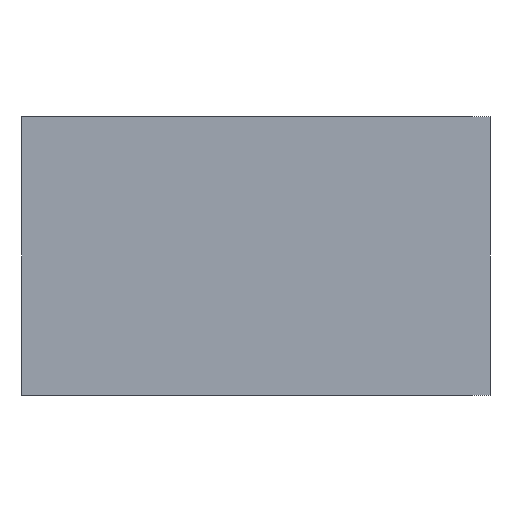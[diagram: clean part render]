
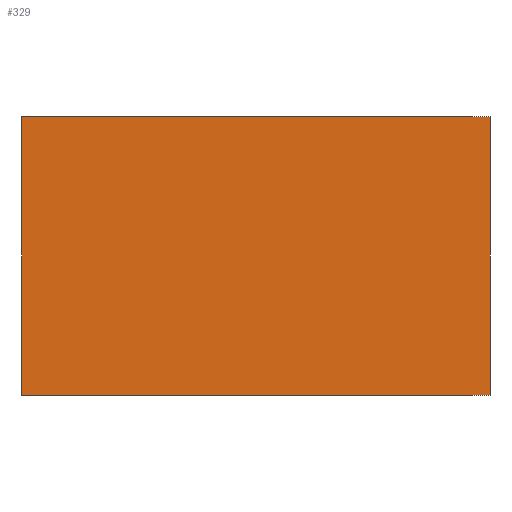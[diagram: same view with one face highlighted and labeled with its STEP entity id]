
A CAD part, front view. The second image highlights one B-rep face of the part: STEP entity #329.
In plain terms, the highlighted planar face has unit normal (0, -1, 0).
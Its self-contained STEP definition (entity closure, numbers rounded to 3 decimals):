
#13 = VECTOR ( 'NONE', #599, 1000. ) ;
#15 = ORIENTED_EDGE ( 'NONE', *, *, #708, .T. ) ;
#18 = EDGE_LOOP ( 'NONE', ( #92, #56, #28, #15 ) ) ;
#21 = LINE ( 'NONE', #598, #13 ) ;
#28 = ORIENTED_EDGE ( 'NONE', *, *, #703, .F. ) ;
#56 = ORIENTED_EDGE ( 'NONE', *, *, #705, .F. ) ;
#92 = ORIENTED_EDGE ( 'NONE', *, *, #710, .T. ) ;
#179 = VECTOR ( 'NONE', #593, 1000. ) ;
#181 = LINE ( 'NONE', #606, #182 ) ;
#182 = VECTOR ( 'NONE', #607, 1000. ) ;
#199 = LINE ( 'NONE', #616, #200 ) ;
#200 = VECTOR ( 'NONE', #617, 1000. ) ;
#240 = LINE ( 'NONE', #630, #179 ) ;
#264 = FACE_OUTER_BOUND ( 'NONE', #18, .T. ) ;
#329 = ADVANCED_FACE ( 'NONE', ( #264 ), #494, .F. ) ;
#390 = VERTEX_POINT ( 'NONE', #502 ) ;
#416 = VERTEX_POINT ( 'NONE', #511 ) ;
#419 = VERTEX_POINT ( 'NONE', #505 ) ;
#423 = VERTEX_POINT ( 'NONE', #533 ) ;
#478 = DIRECTION ( 'NONE',  ( 0., 1., 0. ) ) ;
#479 = DIRECTION ( 'NONE',  ( -1., 0., 0. ) ) ;
#488 = CARTESIAN_POINT ( 'NONE',  ( -101., 0., 120. ) ) ;
#494 = PLANE ( 'NONE',  #663 ) ;
#502 = CARTESIAN_POINT ( 'NONE',  ( 101., 0., 120. ) ) ;
#505 = CARTESIAN_POINT ( 'NONE',  ( -101., 0., 0. ) ) ;
#511 = CARTESIAN_POINT ( 'NONE',  ( 101., 0., 0. ) ) ;
#533 = CARTESIAN_POINT ( 'NONE',  ( -101., 0., 120. ) ) ;
#593 = DIRECTION ( 'NONE',  ( 0., 0., -1. ) ) ;
#598 = CARTESIAN_POINT ( 'NONE',  ( -101., 0., 0. ) ) ;
#599 = DIRECTION ( 'NONE',  ( 1., 0., 0. ) ) ;
#606 = CARTESIAN_POINT ( 'NONE',  ( -101., 0., 120. ) ) ;
#607 = DIRECTION ( 'NONE',  ( 1., 0., 0. ) ) ;
#616 = CARTESIAN_POINT ( 'NONE',  ( -101., 0., 120. ) ) ;
#617 = DIRECTION ( 'NONE',  ( 0., 0., -1. ) ) ;
#630 = CARTESIAN_POINT ( 'NONE',  ( 101., 0., 120. ) ) ;
#663 = AXIS2_PLACEMENT_3D ( 'NONE', #488, #478, #479 ) ;
#703 = EDGE_CURVE ( 'NONE', #423, #390, #181, .T. ) ;
#705 = EDGE_CURVE ( 'NONE', #390, #416, #240, .T. ) ;
#708 = EDGE_CURVE ( 'NONE', #423, #419, #199, .T. ) ;
#710 = EDGE_CURVE ( 'NONE', #419, #416, #21, .T. ) ;
